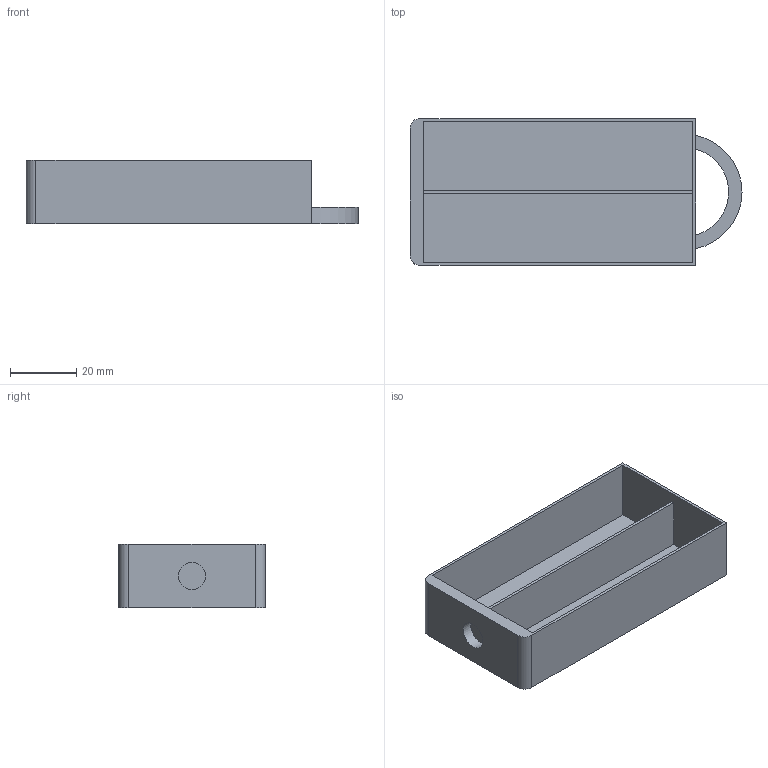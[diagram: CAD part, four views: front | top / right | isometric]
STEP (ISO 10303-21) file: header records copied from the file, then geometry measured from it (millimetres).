
FILE_DESCRIPTION(/* description */ (''),/* implementation_level */ '2;1');
FILE_NAME(/* name */ 'C:/Users/pet3r/Desktop/3D/MOJE/My Drawers/STEP/Drawer 1x1 2-slot lengthwise.step',/* time_stamp */ '2018-03-31T21:34:05+02:00',/* author */ (''),/* organization */ (''),/* preprocessor_version */ 'ST-DEVELOPER v16.13',/* originating_system */ 'Autodesk Translation Framework v6.5.0.72',/* authorisation */ '');
FILE_SCHEMA (('AUTOMOTIVE_DESIGN { 1 0 10303 214 3 1 1 }'));
Length unit declared in the file: millimetre
Products named in the file (1): Drawer 1x1 2-slot lengthwise
Bounding box: 100 x 44.2 x 19.2 mm (x, y, z)
Volume: 11757.6 mm3; surface area: 20315.5 mm2
Topology: 1 solids, 1 shells, 22 faces, 57 edges, 38 vertices
Faces by surface type: plane 16, cylinder 6
Full cylindrical faces by diameter (mm): 8.3 x1
Entity records: 717 total; most frequent: CARTESIAN_POINT 118, DIRECTION 115, ORIENTED_EDGE 114, EDGE_CURVE 57, LINE 45, VECTOR 45, VERTEX_POINT 38, AXIS2_PLACEMENT_3D 35
